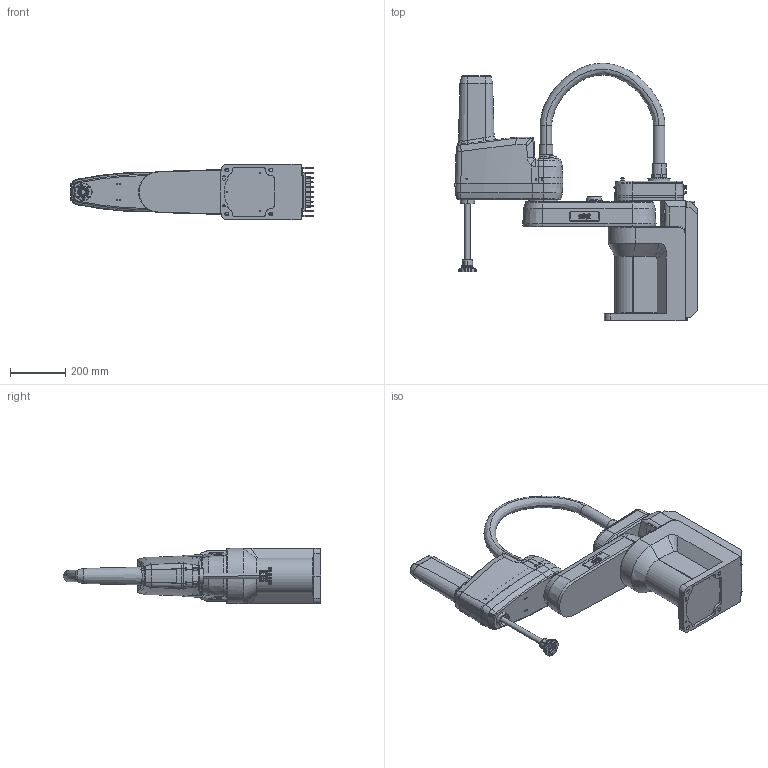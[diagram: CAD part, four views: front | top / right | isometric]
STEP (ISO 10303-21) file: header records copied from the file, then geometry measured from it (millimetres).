
FILE_DESCRIPTION (( 'STEP AP203' ), '1' );
FILE_NAME ('COBRA 600 CAD MODEL.STEP', '2007-10-30T23:48:58', ( ' ' ), ( ' ' ), 'SwSTEP 2.0', 'SolidWorks 2006104', '' );
FILE_SCHEMA (( 'CONFIG_CONTROL_DESIGN' ));
Products named in the file (7): COBRA 600 CAD MODEL; Quill Assy; INNER LINK ASSY; OUTER LINK ASSY; FLYOVER CABLE; BASE ASSY; CABLE CONNECTOR
Assembly tree (7 placements, depth 2):
  COBRA 600 CAD MODEL
    Quill Assy
    BASE ASSY
    CABLE CONNECTOR  x2
    INNER LINK ASSY
    OUTER LINK ASSY
    FLYOVER CABLE
Bounding box: 879.89 x 933.39 x 200 mm (x, y, z)
Volume: 1398545.1 mm3; surface area: 2093201.2 mm2
Topology: 3 solids, 238 shells, 2217 faces, 8825 edges, 6831 vertices
Faces by surface type: plane 1006, cylinder 845, cone 161, torus 113, bspline 84, sphere 8
Entity records: 140036 total; most frequent: CARTESIAN_POINT 68244, DIRECTION 14339, ORIENTED_EDGE 12718, EDGE_CURVE 8721, VERTEX_POINT 6775, VECTOR 4911, LINE 4911, AXIS2_PLACEMENT_3D 4714
